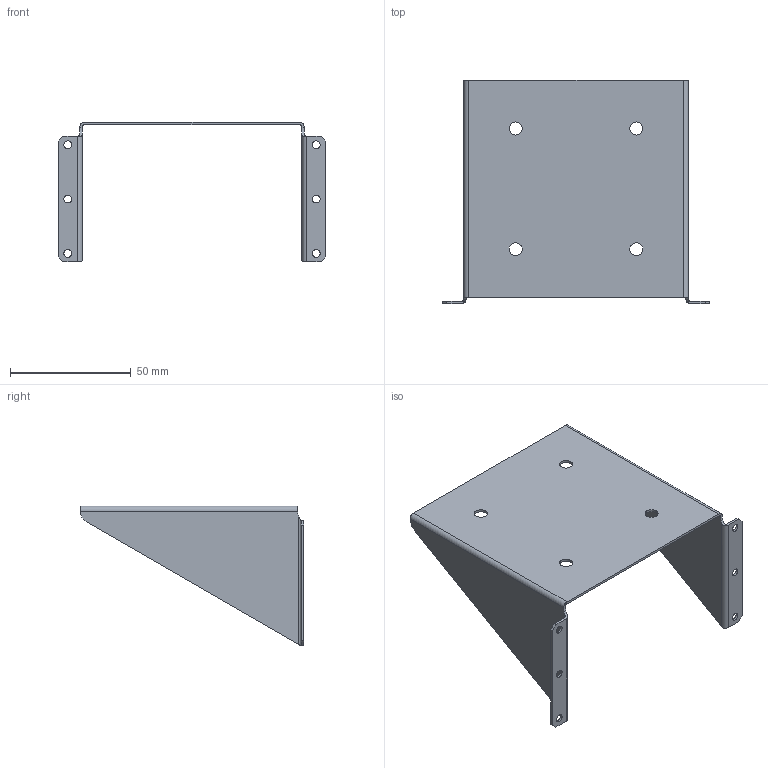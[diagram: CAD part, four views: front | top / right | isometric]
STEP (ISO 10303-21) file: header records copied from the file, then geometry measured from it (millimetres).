
FILE_DESCRIPTION (( 'STEP AP214' ), '1' );
FILE_NAME ('CAS2-00-070-BRACKET.STEP', '2021-11-08T02:22:41', ( '' ), ( '' ), 'SwSTEP 2.0', 'SolidWorks 2021', '' );
FILE_SCHEMA (( 'AUTOMOTIVE_DESIGN' ));
Length unit declared in the file: millimetre
Products named in the file (1): CAS2-00-070-BRACKET
Bounding box: 111 x 92.5 x 57.83 mm (x, y, z)
Volume: 14630.4 mm3; surface area: 29938 mm2
Topology: 1 solids, 1 shells, 56 faces, 158 edges, 104 vertices
Faces by surface type: cylinder 32, plane 24
Entity records: 1924 total; most frequent: CARTESIAN_POINT 359, DIRECTION 324, ORIENTED_EDGE 316, EDGE_CURVE 158, AXIS2_PLACEMENT_3D 117, VERTEX_POINT 104, LINE 90, VECTOR 90
